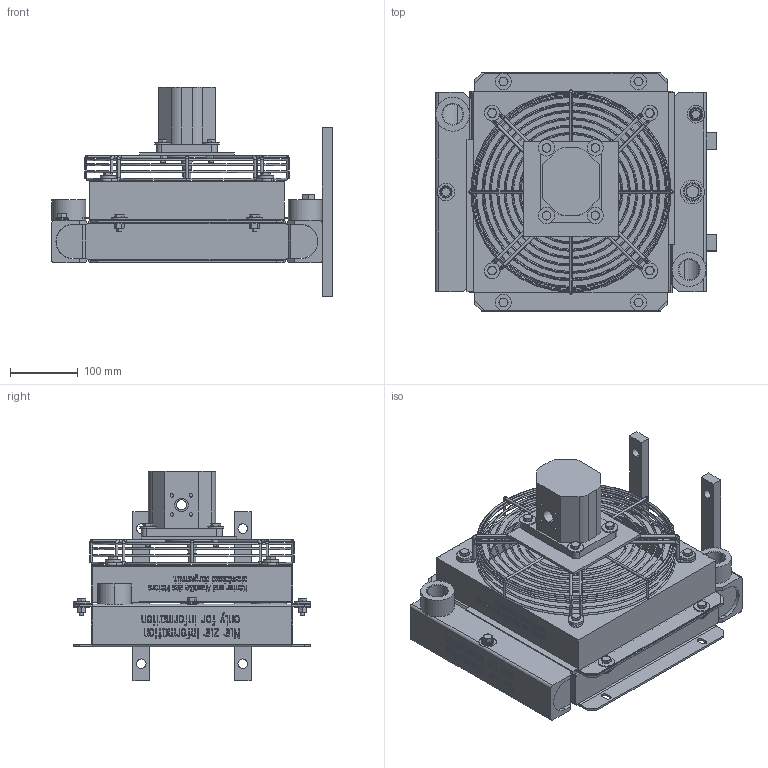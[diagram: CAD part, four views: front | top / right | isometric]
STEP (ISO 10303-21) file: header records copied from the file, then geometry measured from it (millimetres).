
FILE_DESCRIPTION((' '),'1');
FILE_NAME('5202_204_0000.step','2007-09-12 T',(' '),(' '),'STEP Interface v1.0 by CT CoreTechnologie','3D_Evolution v1.0 by CT CoreTechnologie',' ');
FILE_SCHEMA(('AUTOMOTIVE_DESIGN_CC2 { 1 2 10303 214 -1 1 5 2 }'));
Length unit declared in the file: millimetre
Products named in the file (53): 5202_204_0000; Sechskantschraube_ISO_4017-M8x30-8_8-A3B; 8407_470_00441; 8407_470_00442; 6038281; 6038282; 6038283; 6038284; 1915_005_4050; 5202_203_40101; 5202_203_40102; m81; m82; m83; m84; 6030041; 6030042; 6030043; 6030044; 6030045; 6030046; 6030047; 6030048; Sechskantschraube_ISO_4017-M8x20-8_8-A3B; 603857; 6004031; 6004032; 6004033; 6004034; 5202_202_12101; 5202_202_12102; 5202_202_1000; 5202_202_13001; 8421_502_0000-1_Bohrung1; 8423_219_00001; 5202_202_13002; 8421_502_0000-11; 5202_202_12001; 8423_217_0000; 8423_219_00002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
Assembly tree (73 placements, depth 4):
  5202_204_0000
    Sechskantschraube_ISO_4017-M8x30-8_8-A3B  x4
    8407_470_00441
    8407_470_00442
    6038281
    6038282
    6038283
    6038284
    1915_005_4050
    5202_203_40101
      5202_203_40102
      m81
      m82
      m83
      m84
    6030041
    6030042
    6030043
    6030044
    6030045
    6030046
    6030047
    6030048
    Sechskantschraube_ISO_4017-M8x20-8_8-A3B  x8
    603857  x12
    6004031
    6004032
    6004033
    6004034
    5202_202_12101
    5202_202_12102
    5202_202_1000
      5202_202_13001
        8421_502_0000-1_Bohrung1
        8423_219_00001
        5202_202_13002
        8421_502_0000-11
      5202_202_12001
        8423_217_0000
        8423_219_00002
        8421_502_0000-12
        8421_502_0000-1_Bohrung2
        5202_202_12002
      5202_202_11001
        8560_273_00291
        8560_273_00292
        5202_202_11002
      603250
      603666
      603295
      603655
      603241
      603667
Bounding box: 415.01 x 352.23 x 309.61 mm (x, y, z)
Volume: 7768483.7 mm3; surface area: 1137355.3 mm2
Topology: 87 solids, 87 shells, 2659 faces, 6577 edges, 4236 vertices
Faces by surface type: plane 1511, cylinder 435, bspline 251, torus 232, cone 230
Entity records: 100198 total; most frequent: CARTESIAN_POINT 23404, ORIENTED_EDGE 11778, DIRECTION 10935, EDGE_CURVE 5889, VECTOR 3899, LINE 3899, VERTEX_POINT 3808, AXIS2_PLACEMENT_3D 3518
